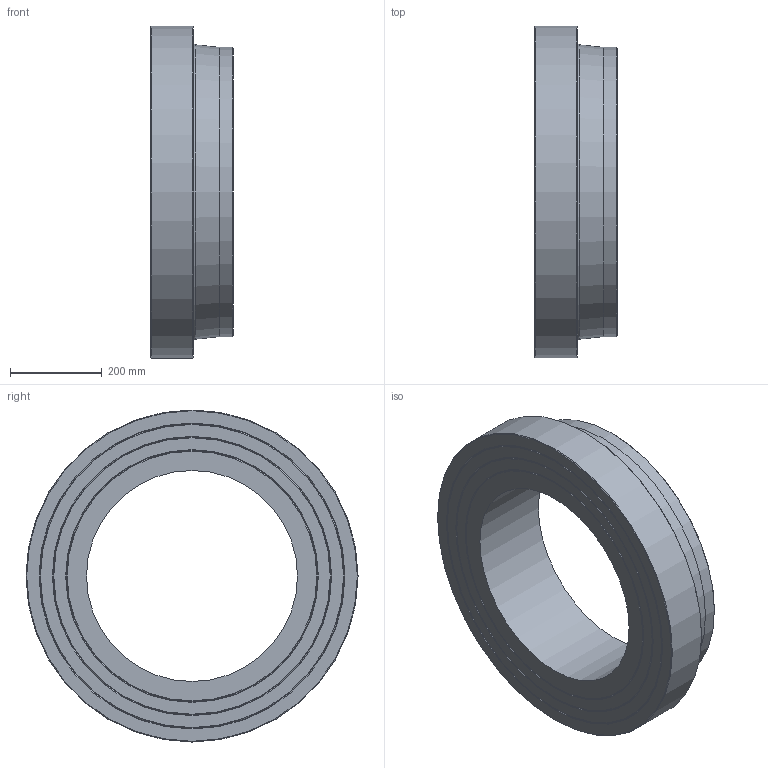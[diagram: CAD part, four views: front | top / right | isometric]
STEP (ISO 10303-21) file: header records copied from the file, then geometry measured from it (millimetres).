
FILE_DESCRIPTION(/* description */ ('Unknown'),/* implementation_level */ '2;1');
FILE_NAME(/* name */ 'CCP630H',/* time_stamp */ '2022-04-04T12:45:44+02:00',/* author */ ('Unknown'),/* organization */ ('Unknown'),/* preprocessor_version */ 'ST-DEVELOPER v18.1',/* originating_system */ 'Solid Edge',/* authorisation */ 'Unknown');
FILE_SCHEMA (('AUTOMOTIVE_DESIGN {1 0 10303 214 3 1 1}'));
Length unit declared in the file: millimetre
Products named in the file (1): CCP630H
Bounding box: 180 x 723 x 723 mm (x, y, z)
Volume: 35771078 mm3; surface area: 1115506.7 mm2
Topology: 1 solids, 1 shells, 20 faces, 35 edges, 21 vertices
Faces by surface type: cone 10, plane 6, cylinder 3, torus 1
Full cylindrical faces by diameter (mm): 459.6 x1, 630 x1, 723 x1
Entity records: 438 total; most frequent: DIRECTION 82, CARTESIAN_POINT 61, AXIS2_PLACEMENT_3D 41, ORIENTED_EDGE 40, EDGE_LOOP 40, FACE_BOUND 40, EDGE_CURVE 20, VERTEX_POINT 20
